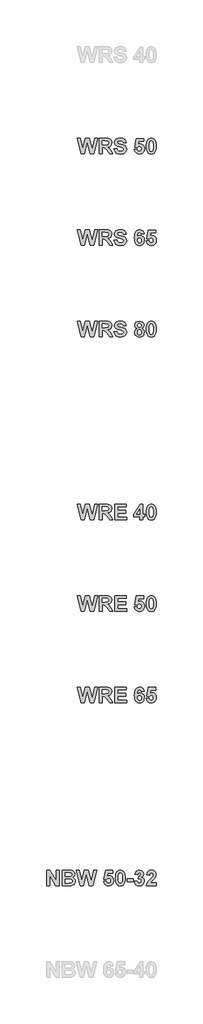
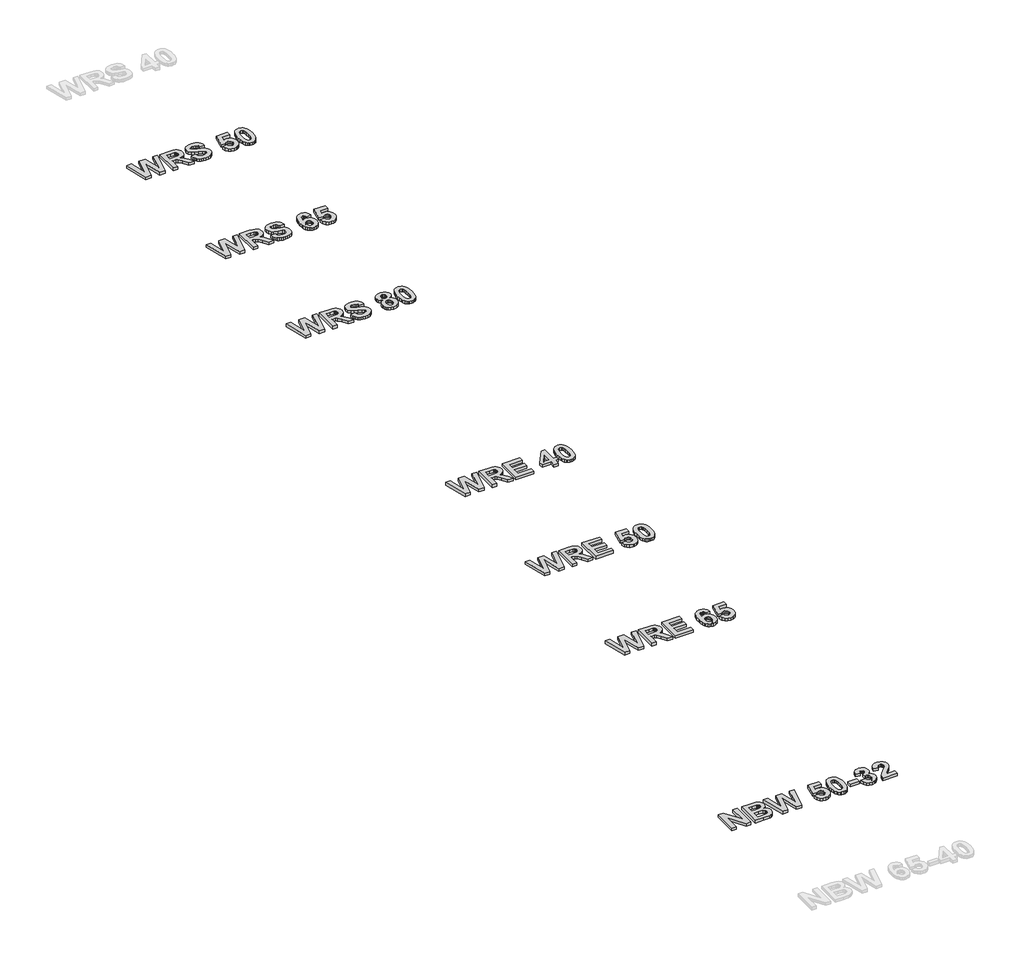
# One storey, part 5 of 9: 7 proxies.
"""IFC4 building model written with IfcOpenShell, lengths in millimetres."""

from ifc_helpers import new_model, si_unit, origin, origin_with_axes, place, context, project, spatial, polyline, outline, extrude, element, save

model = new_model("IFC4")

# Units and contexts
model_context = context("Model", 3, world=origin())
ifc_project = project(units=[si_unit("LENGTHUNIT", "METRE", prefix="MILLI")], contexts=[model_context])

# Site, building, storey
site = spatial("IfcSite", under=ifc_project)
building = spatial("IfcBuilding", under=site)
storey = spatial("IfcBuildingStorey", under=building, Name="Этаж 01", Elevation=0.0)

# Proxies
placement = place(None, origin())
element("IfcBuildingElementProxy", 1, Name="Wellmix_Надпись1", ObjectType="Wellmix_Надпись1", at=placement, inside=storey, context=model_context, shape_type="SweptSolid", body=[
    extrude(outline(polyline([(23621.0634593, -43606.2393741), (23556.8544259, -43351.1745242), (23606.7034095, -43351.1745242), (23647.9490152, -43526.4050883), (23692.2943673, -43351.1745242), (23757.6420831, -43351.1745242), (23801.7976549, -43529.3150543), (23843.0432606, -43351.1745242), (23892.8922441, -43351.1745242), (23829.6321127, -43606.2393741), (23772.1286532, -43606.2393741), (23724.873335, -43415.573338), (23676.6691149, -43606.2393741), (23621.0634593, -43606.2393741)])), origin_with_axes(), (0.0, 0.0, 1.0), 30.0),
    extrude(outline(polyline([(23917.1841346, -43606.2393741), (23917.1841346, -43351.1745242), (24024.4733175, -43351.1745242), (24059.4245402, -43352.8983627), (24083.3052398, -43358.0698785), (24099.8161341, -43367.6537884), (24112.6579408, -43382.6148095), (24120.9133879, -43401.5454038), (24123.6652037, -43423.0380335), (24119.6877229, -43449.3700632), (24107.7552806, -43470.6729125), (24087.8995068, -43485.9818643), (24060.1520317, -43494.3322016), (24085.6458647, -43515.5876058), (24112.7212009, -43556.7699514), (24143.9084457, -43606.2393741), (24087.1641078, -43606.2393741), (24050.220191, -43547.9767931), (24021.2154208, -43513.4051312), (24004.6412663, -43503.6314409), (23976.9016987, -43500.9745154), (23965.7679156, -43500.9745154), (23965.7679156, -43606.2393741), (23917.1841346, -43606.2393741)]), holes=[polyline([(23965.7679156, -43456.4393829), (24005.8115788, -43456.4393829), (24054.4269898, -43453.4977868), (24069.6094213, -43443.3761657), (24075.0814227, -43425.4419185), (24073.278509, -43414.5216383), (24067.8697677, -43405.9261679), (24059.1714996, -43399.8611028), (24047.5000054, -43396.5320384), (24008.0256834, -43395.7096567), (23965.7679156, -43395.7096567), (23965.7679156, -43456.4393829)])]), origin_with_axes(), (0.0, 0.0, 1.0), 30.0),
    extrude(outline(polyline([(24172.2489846, -43606.2393741), (24172.2489846, -43351.1745242), (24362.53546, -43351.1745242), (24362.53546, -43395.7096567), (24220.8327656, -43395.7096567), (24220.8327656, -43452.3907345), (24354.4381632, -43452.3907345), (24354.4381632, -43496.925867), (24220.8327656, -43496.925867), (24220.8327656, -43561.7042416), (24366.5841084, -43561.7042416), (24366.5841084, -43606.2393741), (24172.2489846, -43606.2393741)])), origin_with_axes(), (0.0, 0.0, 1.0), 30.0),
    extrude(outline(polyline([(24585.2111227, -43606.2393741), (24585.2111227, -43553.6069448), (24488.0435608, -43553.6069448), (24488.0435608, -43513.3102411), (24591.6636561, -43355.2231726), (24633.7949036, -43355.2231726), (24633.7949036, -43513.1204607), (24666.1840909, -43513.1204607), (24666.1840909, -43553.6069448), (24633.7949036, -43553.6069448), (24633.7949036, -43606.2393741), (24585.2111227, -43606.2393741)]), holes=[polyline([(24585.2111227, -43513.1204607), (24585.2111227, -43430.2496885), (24530.9339299, -43513.1204607), (24585.2111227, -43513.1204607)])]), origin_with_axes(), (0.0, 0.0, 1.0), 30.0),
    extrude(outline(polyline([(24771.4489497, -43351.1745242), (24788.580584, -43352.8192876), (24803.7274317, -43357.7535778), (24816.8894928, -43365.9773949), (24828.0667673, -43377.4907388), (24838.7221457, -43395.6187203), (24846.3331303, -43418.8786798), (24850.899721, -43447.2706176), (24852.4219179, -43480.7945335), (24850.8918135, -43514.2868193), (24846.3015002, -43542.7103871), (24838.650978, -43566.0652369), (24827.940247, -43584.3513687), (24816.8183252, -43595.6986547), (24803.6958017, -43603.8038591), (24788.5726765, -43608.6669817), (24771.4489497, -43610.2880226), (24754.1413731, -43608.5088314), (24738.5932189, -43603.1712578), (24724.8044871, -43594.2753018), (24712.7751777, -43581.8209634), (24703.0192793, -43564.8000343), (24696.0507805, -43542.2043061), (24691.8696812, -43514.0337788), (24690.4759814, -43480.2884524), (24692.0060858, -43446.9622244), (24696.5963991, -43418.6572694), (24704.2469213, -43395.3735872), (24714.9576523, -43377.111178), (24726.0795741, -43365.763892), (24739.2020977, -43357.6586876), (24754.3252228, -43352.795565), (24771.4489497, -43351.1745242)]), holes=[polyline([(24771.4489497, -43395.7096567), (24755.254356, -43401.0551378), (24748.9283429, -43408.5277408), (24744.2470931, -43420.2545877), (24740.3565951, -43444.4041429), (24739.0597624, -43480.7945335), (24740.2142598, -43516.7025656), (24743.677752, -43539.278525), (24748.9046203, -43552.5315225), (24755.3492462, -43560.470669), (24771.4489497, -43565.75289), (24787.6435433, -43560.4074089), (24793.9695565, -43552.9348059), (24798.6508062, -43541.207959), (24802.5413043, -43517.1849241), (24803.838137, -43480.7945335), (24802.6836396, -43444.926039), (24799.2201474, -43422.342172), (24793.993279, -43409.0496369), (24787.5486531, -43401.0551378), (24771.4489497, -43395.7096567)])]), origin_with_axes(), (0.0, 0.0, 1.0), 30.0),
])
element("IfcBuildingElementProxy", 2, Name="Wellmix_Надпись1", ObjectType="Wellmix_Надпись1", at=placement, inside=storey, context=model_context, shape_type="SweptSolid", body=[
    extrude(outline(polyline([(23621.0634593, -37606.2393741), (23556.8544259, -37351.1745242), (23606.7034095, -37351.1745242), (23647.9490152, -37526.4050883), (23692.2943673, -37351.1745242), (23757.6420831, -37351.1745242), (23801.7976549, -37529.3150543), (23843.0432606, -37351.1745242), (23892.8922441, -37351.1745242), (23829.6321127, -37606.2393741), (23772.1286532, -37606.2393741), (23724.873335, -37415.573338), (23676.6691149, -37606.2393741), (23621.0634593, -37606.2393741)])), origin_with_axes(), (0.0, 0.0, 1.0), 30.0),
    extrude(outline(polyline([(23917.1841346, -37606.2393741), (23917.1841346, -37351.1745242), (24024.4733175, -37351.1745242), (24059.4245402, -37352.8983627), (24083.3052398, -37358.0698785), (24099.8161341, -37367.6537884), (24112.6579408, -37382.6148095), (24120.9133879, -37401.5454038), (24123.6652037, -37423.0380335), (24119.6877229, -37449.3700632), (24107.7552806, -37470.6729125), (24087.8995068, -37485.9818643), (24060.1520317, -37494.3322016), (24085.6458647, -37515.5876058), (24112.7212009, -37556.7699514), (24143.9084457, -37606.2393741), (24087.1641078, -37606.2393741), (24050.220191, -37547.9767931), (24021.2154208, -37513.4051312), (24004.6412663, -37503.6314409), (23976.9016987, -37500.9745154), (23965.7679156, -37500.9745154), (23965.7679156, -37606.2393741), (23917.1841346, -37606.2393741)]), holes=[polyline([(23965.7679156, -37456.4393829), (24005.8115788, -37456.4393829), (24054.4269898, -37453.4977868), (24069.6094213, -37443.3761657), (24075.0814227, -37425.4419185), (24073.278509, -37414.5216383), (24067.8697677, -37405.9261679), (24059.1714996, -37399.8611028), (24047.5000054, -37396.5320384), (24008.0256834, -37395.7096567), (23965.7679156, -37395.7096567), (23965.7679156, -37456.4393829)])]), origin_with_axes(), (0.0, 0.0, 1.0), 30.0),
    extrude(outline(polyline([(24160.1030394, -37521.2177575), (24208.6868203, -37517.1691091), (24215.771955, -37538.8989642), (24227.6648597, -37553.9865056), (24244.4446096, -37562.8112939), (24266.1902798, -37565.75289), (24288.7583317, -37563.1513171), (24304.9687404, -37555.3465984), (24314.7424307, -37544.0625725), (24318.0003275, -37531.0230779), (24312.5915862, -37515.8090162), (24293.6451768, -37504.8966436), (24251.5139293, -37494.0791611), (24215.5505446, -37482.8979329), (24192.175926, -37469.2179294), (24174.1942336, -37445.922386), (24168.2003362, -37418.0404831), (24170.9521519, -37399.2522241), (24179.2075991, -37381.7291676), (24192.650377, -37366.8472217), (24210.964185, -37355.9822941), (24233.8485376, -37349.3399803), (24261.002949, -37347.1258757), (24302.9681387, -37352.6453222), (24319.5086862, -37359.5446303), (24333.0878688, -37369.2036616), (24343.7491778, -37381.1637802), (24351.5361046, -37394.9663501), (24356.4486492, -37410.6113714), (24358.4868116, -37428.098844), (24309.9030306, -37428.098844), (24304.533827, -37411.4060768), (24295.2583102, -37400.169496), (24281.2224685, -37393.7881302), (24261.5722902, -37391.6610083), (24240.8862272, -37393.922558), (24225.2609748, -37400.7072071), (24218.9033315, -37407.5076712), (24216.7841171, -37416.2691994), (24218.7135511, -37424.5404616), (24224.5018532, -37431.5148911), (24241.3053256, -37439.6833556), (24272.1051021, -37448.1206756), (24304.9766479, -37456.8980188), (24327.9954282, -37466.0865529), (24344.1267617, -37477.2124285), (24356.3359671, -37491.8017964), (24364.0220731, -37510.0365292), (24366.5841084, -37532.0985001), (24363.5555296, -37553.1641239), (24354.4697932, -37572.8380247), (24339.8408878, -37589.3805491), (24320.182802, -37601.0520434), (24295.2820327, -37607.9790278), (24264.9250772, -37610.2880226), (24242.2225975, -37608.8666465), (24222.3193786, -37604.6025182), (24205.2154206, -37597.4956379), (24190.9107234, -37587.5460053), (24179.306443, -37574.8722333), (24170.3037356, -37559.5929347), (24163.902601, -37541.7081094), (24160.1030394, -37521.2177575)])), origin_with_axes(), (0.0, 0.0, 1.0), 30.0),
    extrude(outline(polyline([(24496.1408576, -37534.439125), (24540.6759901, -37529.3150543), (24544.8195288, -37544.3867806), (24553.0749759, -37555.9475696), (24564.177129, -37563.3015599), (24576.8607853, -37565.75289), (24591.0547773, -37563.1513171), (24602.8923294, -37555.3465984), (24610.8868285, -37542.3071038), (24613.5516616, -37524.0012033), (24611.0766089, -37506.8418926), (24603.651451, -37494.5852421), (24592.2567198, -37487.2312519), (24577.8729474, -37484.7799218), (24559.0530583, -37489.8407323), (24542.3207536, -37505.0231638), (24500.189506, -37498.7604108), (24528.5300449, -37355.2231726), (24649.9894973, -37355.2231726), (24649.9894973, -37403.8069535), (24567.8145865, -37403.8069535), (24558.0092662, -37450.1766299), (24573.4921833, -37442.7277494), (24589.3230312, -37440.2447892), (24617.4421597, -37445.9935537), (24640.9432985, -37463.239847), (24656.8374065, -37489.6588594), (24662.1354425, -37522.925781), (24657.7230483, -37551.8514761), (24644.4858658, -37577.5192745), (24631.2684521, -37591.8556018), (24615.7183211, -37602.0958355), (24597.8354727, -37608.2399758), (24577.6199069, -37610.2880226), (24546.614535, -37605.1481369), (24521.9193612, -37589.7284798), (24504.7046979, -37565.6263698), (24496.1408576, -37534.439125)])), origin_with_axes(), (0.0, 0.0, 1.0), 30.0),
    extrude(outline(polyline([(24771.4489497, -37351.1745242), (24788.580584, -37352.8192876), (24803.7274317, -37357.7535778), (24816.8894928, -37365.9773949), (24828.0667673, -37377.4907388), (24838.7221457, -37395.6187203), (24846.3331303, -37418.8786798), (24850.899721, -37447.2706176), (24852.4219179, -37480.7945335), (24850.8918135, -37514.2868193), (24846.3015002, -37542.7103871), (24838.650978, -37566.0652369), (24827.940247, -37584.3513687), (24816.8183252, -37595.6986547), (24803.6958017, -37603.8038591), (24788.5726765, -37608.6669817), (24771.4489497, -37610.2880226), (24754.1413731, -37608.5088314), (24738.5932189, -37603.1712578), (24724.8044871, -37594.2753018), (24712.7751777, -37581.8209634), (24703.0192793, -37564.8000343), (24696.0507805, -37542.2043061), (24691.8696812, -37514.0337788), (24690.4759814, -37480.2884524), (24692.0060858, -37446.9622244), (24696.5963991, -37418.6572694), (24704.2469213, -37395.3735872), (24714.9576523, -37377.111178), (24726.0795741, -37365.763892), (24739.2020977, -37357.6586876), (24754.3252228, -37352.795565), (24771.4489497, -37351.1745242)]), holes=[polyline([(24771.4489497, -37395.7096567), (24755.254356, -37401.0551378), (24748.9283429, -37408.5277408), (24744.2470931, -37420.2545877), (24740.3565951, -37444.4041429), (24739.0597624, -37480.7945335), (24740.2142598, -37516.7025656), (24743.677752, -37539.278525), (24748.9046203, -37552.5315225), (24755.3492462, -37560.470669), (24771.4489497, -37565.75289), (24787.6435433, -37560.4074089), (24793.9695565, -37552.9348059), (24798.6508062, -37541.207959), (24802.5413043, -37517.1849241), (24803.838137, -37480.7945335), (24802.6836396, -37444.926039), (24799.2201474, -37422.342172), (24793.993279, -37409.0496369), (24787.5486531, -37401.0551378), (24771.4489497, -37395.7096567)])]), origin_with_axes(), (0.0, 0.0, 1.0), 30.0),
])
element("IfcBuildingElementProxy", 3, Name="Wellmix_Надпись1", ObjectType="Wellmix_Надпись1", at=placement, inside=storey, context=model_context, shape_type="SweptSolid", body=[
    extrude(outline(polyline([(23621.0634593, -39106.2393741), (23556.8544259, -38851.1745242), (23606.7034095, -38851.1745242), (23647.9490152, -39026.4050883), (23692.2943673, -38851.1745242), (23757.6420831, -38851.1745242), (23801.7976549, -39029.3150543), (23843.0432606, -38851.1745242), (23892.8922441, -38851.1745242), (23829.6321127, -39106.2393741), (23772.1286532, -39106.2393741), (23724.873335, -38915.573338), (23676.6691149, -39106.2393741), (23621.0634593, -39106.2393741)])), origin_with_axes(), (0.0, 0.0, 1.0), 30.0),
    extrude(outline(polyline([(23917.1841346, -39106.2393741), (23917.1841346, -38851.1745242), (24024.4733175, -38851.1745242), (24059.4245402, -38852.8983627), (24083.3052398, -38858.0698785), (24099.8161341, -38867.6537884), (24112.6579408, -38882.6148095), (24120.9133879, -38901.5454038), (24123.6652037, -38923.0380335), (24119.6877229, -38949.3700632), (24107.7552806, -38970.6729125), (24087.8995068, -38985.9818643), (24060.1520317, -38994.3322016), (24085.6458647, -39015.5876058), (24112.7212009, -39056.7699514), (24143.9084457, -39106.2393741), (24087.1641078, -39106.2393741), (24050.220191, -39047.9767931), (24021.2154208, -39013.4051312), (24004.6412663, -39003.6314409), (23976.9016987, -39000.9745154), (23965.7679156, -39000.9745154), (23965.7679156, -39106.2393741), (23917.1841346, -39106.2393741)]), holes=[polyline([(23965.7679156, -38956.4393829), (24005.8115788, -38956.4393829), (24054.4269898, -38953.4977868), (24069.6094213, -38943.3761657), (24075.0814227, -38925.4419185), (24073.278509, -38914.5216383), (24067.8697677, -38905.9261679), (24059.1714996, -38899.8611028), (24047.5000054, -38896.5320384), (24008.0256834, -38895.7096567), (23965.7679156, -38895.7096567), (23965.7679156, -38956.4393829)])]), origin_with_axes(), (0.0, 0.0, 1.0), 30.0),
    extrude(outline(polyline([(24160.1030394, -39021.2177575), (24208.6868203, -39017.1691091), (24215.771955, -39038.8989642), (24227.6648597, -39053.9865056), (24244.4446096, -39062.8112939), (24266.1902798, -39065.75289), (24288.7583317, -39063.1513171), (24304.9687404, -39055.3465984), (24314.7424307, -39044.0625725), (24318.0003275, -39031.0230779), (24312.5915862, -39015.8090162), (24293.6451768, -39004.8966436), (24251.5139293, -38994.0791611), (24215.5505446, -38982.8979329), (24192.175926, -38969.2179294), (24174.1942336, -38945.922386), (24168.2003362, -38918.0404831), (24170.9521519, -38899.2522241), (24179.2075991, -38881.7291676), (24192.650377, -38866.8472217), (24210.964185, -38855.9822941), (24233.8485376, -38849.3399803), (24261.002949, -38847.1258757), (24302.9681387, -38852.6453222), (24319.5086862, -38859.5446303), (24333.0878688, -38869.2036616), (24343.7491778, -38881.1637802), (24351.5361046, -38894.9663501), (24356.4486492, -38910.6113714), (24358.4868116, -38928.098844), (24309.9030306, -38928.098844), (24304.533827, -38911.4060768), (24295.2583102, -38900.169496), (24281.2224685, -38893.7881302), (24261.5722902, -38891.6610083), (24240.8862272, -38893.922558), (24225.2609748, -38900.7072071), (24218.9033315, -38907.5076712), (24216.7841171, -38916.2691994), (24218.7135511, -38924.5404616), (24224.5018532, -38931.5148911), (24241.3053256, -38939.6833556), (24272.1051021, -38948.1206756), (24304.9766479, -38956.8980188), (24327.9954282, -38966.0865529), (24344.1267617, -38977.2124285), (24356.3359671, -38991.8017964), (24364.0220731, -39010.0365292), (24366.5841084, -39032.0985001), (24363.5555296, -39053.1641239), (24354.4697932, -39072.8380247), (24339.8408878, -39089.3805491), (24320.182802, -39101.0520434), (24295.2820327, -39107.9790278), (24264.9250772, -39110.2880226), (24242.2225975, -39108.8666465), (24222.3193786, -39104.6025182), (24205.2154206, -39097.4956379), (24190.9107234, -39087.5460053), (24179.306443, -39074.8722333), (24170.3037356, -39059.5929347), (24163.902601, -39041.7081094), (24160.1030394, -39021.2177575)])), origin_with_axes(), (0.0, 0.0, 1.0), 30.0),
    extrude(outline(polyline([(24654.0381457, -38918.8628648), (24605.4543647, -38924.0501956), (24602.4811386, -38911.4535219), (24596.8509869, -38902.6366411), (24588.8485802, -38897.4414028), (24578.7585893, -38895.7096567), (24565.157661, -38899.0703512), (24553.8340975, -38909.1524346), (24545.5312052, -38929.9887404), (24540.9922908, -38965.6121019), (24561.0141224, -38949.6231037), (24585.4009031, -38944.2934376), (24613.2274534, -38949.9868495), (24636.7364997, -38967.067085), (24652.7492205, -38993.1460742), (24658.0867941, -39025.8357471), (24652.6306078, -39060.2729811), (24645.8103748, -39074.6626842), (24636.2620488, -39087.1664445), (24624.5707857, -39097.2821349), (24611.3217419, -39104.507628), (24580.1503122, -39110.2880226), (24562.6193482, -39108.4218487), (24546.7173327, -39102.823327), (24532.4442655, -39093.4924577), (24519.8001468, -39080.4292405), (24509.4492078, -39063.1157333), (24502.0556799, -39041.0339937), (24497.6195632, -39014.1840216), (24496.1408576, -38982.5658172), (24497.6848002, -38950.1133697), (24502.3166279, -38922.5319524), (24510.0363409, -38899.8215652), (24520.8439389, -38881.9822082), (24534.1186821, -38868.5038464), (24549.2398304, -38858.8764452), (24566.2073838, -38853.1000044), (24585.0213423, -38851.1745242), (24610.3412099, -38855.5078432), (24630.8849376, -38868.5078002), (24645.7510685, -38889.7632043), (24654.0381457, -38918.8628648)]), holes=[polyline([(24544.7246386, -39024.7603248), (24547.349934, -39042.1805835), (24555.2258204, -39055.0935579), (24566.4703087, -39063.088057), (24579.2014102, -39065.75289), (24591.0943149, -39063.5704155), (24600.8363751, -39057.0229919), (24607.3363537, -39045.4938329), (24609.5030132, -39028.3661523), (24607.1702958, -39010.6137779), (24600.1721438, -38998.34922), (24589.6788695, -38991.2087326), (24576.8607853, -38988.8285702), (24564.422262, -38991.1059349), (24554.0555079, -38997.9380291), (24547.0573559, -39009.1983325), (24544.7246386, -39024.7603248)])]), origin_with_axes(), (0.0, 0.0, 1.0), 30.0),
    extrude(outline(polyline([(24690.4759814, -39034.439125), (24735.0111139, -39029.3150543), (24739.1546526, -39044.3867806), (24747.4100997, -39055.9475696), (24758.5122528, -39063.3015599), (24771.1959091, -39065.75289), (24785.3899011, -39063.1513171), (24797.2274532, -39055.3465984), (24805.2219523, -39042.3071038), (24807.8867854, -39024.0012033), (24805.4117327, -39006.8418926), (24797.9865748, -38994.5852421), (24786.5918436, -38987.2312519), (24772.2080712, -38984.7799218), (24753.3881821, -38989.8407323), (24736.6558774, -39005.0231638), (24694.5246298, -38998.7604108), (24722.8651687, -38855.2231726), (24844.3246211, -38855.2231726), (24844.3246211, -38903.8069535), (24762.1497103, -38903.8069535), (24752.34439, -38950.1766299), (24767.8273071, -38942.7277494), (24783.658155, -38940.2447892), (24811.7772835, -38945.9935537), (24835.2784223, -38963.239847), (24851.1725303, -38989.6588594), (24856.4705663, -39022.925781), (24852.0581722, -39051.8514761), (24838.8209896, -39077.5192745), (24825.6035759, -39091.8556018), (24810.0534449, -39102.0958355), (24792.1705965, -39108.2399758), (24771.9550307, -39110.2880226), (24740.9496588, -39105.1481369), (24716.254485, -39089.7284798), (24699.0398217, -39065.6263698), (24690.4759814, -39034.439125)])), origin_with_axes(), (0.0, 0.0, 1.0), 30.0),
])
element("IfcBuildingElementProxy", 4, Name="Wellmix_Надпись1", ObjectType="Wellmix_Надпись1", at=placement, inside=storey, context=model_context, shape_type="SweptSolid", body=[
    extrude(outline(polyline([(23621.0634593, -40606.2393741), (23556.8544259, -40351.1745242), (23606.7034095, -40351.1745242), (23647.9490152, -40526.4050883), (23692.2943673, -40351.1745242), (23757.6420831, -40351.1745242), (23801.7976549, -40529.3150543), (23843.0432606, -40351.1745242), (23892.8922441, -40351.1745242), (23829.6321127, -40606.2393741), (23772.1286532, -40606.2393741), (23724.873335, -40415.573338), (23676.6691149, -40606.2393741), (23621.0634593, -40606.2393741)])), origin_with_axes(), (0.0, 0.0, 1.0), 30.0),
    extrude(outline(polyline([(23917.1841346, -40606.2393741), (23917.1841346, -40351.1745242), (24024.4733175, -40351.1745242), (24059.4245402, -40352.8983627), (24083.3052398, -40358.0698785), (24099.8161341, -40367.6537884), (24112.6579408, -40382.6148095), (24120.9133879, -40401.5454038), (24123.6652037, -40423.0380335), (24119.6877229, -40449.3700632), (24107.7552806, -40470.6729125), (24087.8995068, -40485.9818643), (24060.1520317, -40494.3322016), (24085.6458647, -40515.5876058), (24112.7212009, -40556.7699514), (24143.9084457, -40606.2393741), (24087.1641078, -40606.2393741), (24050.220191, -40547.9767931), (24021.2154208, -40513.4051312), (24004.6412663, -40503.6314409), (23976.9016987, -40500.9745154), (23965.7679156, -40500.9745154), (23965.7679156, -40606.2393741), (23917.1841346, -40606.2393741)]), holes=[polyline([(23965.7679156, -40456.4393829), (24005.8115788, -40456.4393829), (24054.4269898, -40453.4977868), (24069.6094213, -40443.3761657), (24075.0814227, -40425.4419185), (24073.278509, -40414.5216383), (24067.8697677, -40405.9261679), (24059.1714996, -40399.8611028), (24047.5000054, -40396.5320384), (24008.0256834, -40395.7096567), (23965.7679156, -40395.7096567), (23965.7679156, -40456.4393829)])]), origin_with_axes(), (0.0, 0.0, 1.0), 30.0),
    extrude(outline(polyline([(24160.1030394, -40521.2177575), (24208.6868203, -40517.1691091), (24215.771955, -40538.8989642), (24227.6648597, -40553.9865056), (24244.4446096, -40562.8112939), (24266.1902798, -40565.75289), (24288.7583317, -40563.1513171), (24304.9687404, -40555.3465984), (24314.7424307, -40544.0625725), (24318.0003275, -40531.0230779), (24312.5915862, -40515.8090162), (24293.6451768, -40504.8966436), (24251.5139293, -40494.0791611), (24215.5505446, -40482.8979329), (24192.175926, -40469.2179294), (24174.1942336, -40445.922386), (24168.2003362, -40418.0404831), (24170.9521519, -40399.2522241), (24179.2075991, -40381.7291676), (24192.650377, -40366.8472217), (24210.964185, -40355.9822941), (24233.8485376, -40349.3399803), (24261.002949, -40347.1258757), (24302.9681387, -40352.6453222), (24319.5086862, -40359.5446303), (24333.0878688, -40369.2036616), (24343.7491778, -40381.1637802), (24351.5361046, -40394.9663501), (24356.4486492, -40410.6113714), (24358.4868116, -40428.098844), (24309.9030306, -40428.098844), (24304.533827, -40411.4060768), (24295.2583102, -40400.169496), (24281.2224685, -40393.7881302), (24261.5722902, -40391.6610083), (24240.8862272, -40393.922558), (24225.2609748, -40400.7072071), (24218.9033315, -40407.5076712), (24216.7841171, -40416.2691994), (24218.7135511, -40424.5404616), (24224.5018532, -40431.5148911), (24241.3053256, -40439.6833556), (24272.1051021, -40448.1206756), (24304.9766479, -40456.8980188), (24327.9954282, -40466.0865529), (24344.1267617, -40477.2124285), (24356.3359671, -40491.8017964), (24364.0220731, -40510.0365292), (24366.5841084, -40532.0985001), (24363.5555296, -40553.1641239), (24354.4697932, -40572.8380247), (24339.8408878, -40589.3805491), (24320.182802, -40601.0520434), (24295.2820327, -40607.9790278), (24264.9250772, -40610.2880226), (24242.2225975, -40608.8666465), (24222.3193786, -40604.6025182), (24205.2154206, -40597.4956379), (24190.9107234, -40587.5460053), (24179.306443, -40574.8722333), (24170.3037356, -40559.5929347), (24163.902601, -40541.7081094), (24160.1030394, -40521.2177575)])), origin_with_axes(), (0.0, 0.0, 1.0), 30.0),
    extrude(outline(polyline([(24538.7781862, -40469.4077098), (24521.3025749, -40459.9345051), (24509.3622251, -40447.4564442), (24502.4826858, -40432.7959088), (24500.189506, -40416.7752805), (24505.1949639, -40390.783274), (24520.2113376, -40369.7413727), (24544.4478755, -40355.8162363), (24577.1138259, -40351.1745242), (24609.5820883, -40355.8162363), (24633.8581638, -40369.7413727), (24648.9931502, -40390.783274), (24654.0381457, -40416.7752805), (24651.4840179, -40433.5154927), (24643.8216345, -40448.310456), (24631.5254464, -40460.4959388), (24615.0699047, -40469.4077098), (24633.6130308, -40479.8140015), (24647.1111613, -40494.0791611), (24655.3428859, -40511.5231423), (24658.0867941, -40531.4658988), (24652.6464228, -40563.2224848), (24645.8459587, -40576.6336326), (24636.3253089, -40588.4000171), (24624.5470632, -40597.9760195), (24610.9738112, -40604.8160212), (24578.4422886, -40610.2880226), (24547.6662347, -40605.7649232), (24522.5203324, -40592.195625), (24510.9793122, -40580.5122694), (24502.7357263, -40566.8441273), (24497.7895748, -40551.1911985), (24496.1408576, -40533.5534831), (24498.7108004, -40513.8874898), (24506.420629, -40495.8820748), (24519.649904, -40480.6759207), (24538.7781862, -40469.4077098)]), holes=[polyline([(24548.773287, -40419.7485066), (24550.6948135, -40433.4364176), (24556.4593929, -40443.7557265), (24565.4186091, -40450.2319825), (24576.9240455, -40452.3907345), (24588.5955397, -40450.2082599), (24597.6733686, -40443.6608363), (24603.5091157, -40433.2703597), (24605.4543647, -40419.5587262), (24603.5328383, -40406.5113241), (24597.7682588, -40396.342258), (24588.8406727, -40389.7948344), (24577.4301265, -40387.6123599), (24565.6637421, -40389.8106494), (24556.5542831, -40396.4055181), (24550.718536, -40406.6378444), (24548.773287, -40419.7485066)]), polyline([(24544.7246386, -40529.4415746), (24547.0810785, -40548.0795908), (24554.1503981, -40562.1154325), (24564.7464702, -40570.9164982), (24577.683167, -40573.8501868), (24590.2798407, -40571.0272035), (24600.4884444, -40562.5582534), (24607.249371, -40548.7754522), (24609.5030132, -40530.0109158), (24607.2098334, -40513.2390734), (24600.3302941, -40500.1205036), (24589.9240025, -40491.6515535), (24577.0505657, -40488.8285702), (24562.8091286, -40492.0311143), (24552.7270452, -40501.6387468), (24546.7252402, -40514.9945421), (24544.7246386, -40529.4415746)])]), origin_with_axes(), (0.0, 0.0, 1.0), 30.0),
    extrude(outline(polyline([(24771.4489497, -40351.1745242), (24788.580584, -40352.8192876), (24803.7274317, -40357.7535778), (24816.8894928, -40365.9773949), (24828.0667673, -40377.4907388), (24838.7221457, -40395.6187203), (24846.3331303, -40418.8786798), (24850.899721, -40447.2706176), (24852.4219179, -40480.7945335), (24850.8918135, -40514.2868193), (24846.3015002, -40542.7103871), (24838.650978, -40566.0652369), (24827.940247, -40584.3513687), (24816.8183252, -40595.6986547), (24803.6958017, -40603.8038591), (24788.5726765, -40608.6669817), (24771.4489497, -40610.2880226), (24754.1413731, -40608.5088314), (24738.5932189, -40603.1712578), (24724.8044871, -40594.2753018), (24712.7751777, -40581.8209634), (24703.0192793, -40564.8000343), (24696.0507805, -40542.2043061), (24691.8696812, -40514.0337788), (24690.4759814, -40480.2884524), (24692.0060858, -40446.9622244), (24696.5963991, -40418.6572694), (24704.2469213, -40395.3735872), (24714.9576523, -40377.111178), (24726.0795741, -40365.763892), (24739.2020977, -40357.6586876), (24754.3252228, -40352.795565), (24771.4489497, -40351.1745242)]), holes=[polyline([(24771.4489497, -40395.7096567), (24755.254356, -40401.0551378), (24748.9283429, -40408.5277408), (24744.2470931, -40420.2545877), (24740.3565951, -40444.4041429), (24739.0597624, -40480.7945335), (24740.2142598, -40516.7025656), (24743.677752, -40539.278525), (24748.9046203, -40552.5315225), (24755.3492462, -40560.470669), (24771.4489497, -40565.75289), (24787.6435433, -40560.4074089), (24793.9695565, -40552.9348059), (24798.6508062, -40541.207959), (24802.5413043, -40517.1849241), (24803.838137, -40480.7945335), (24802.6836396, -40444.926039), (24799.2201474, -40422.342172), (24793.993279, -40409.0496369), (24787.5486531, -40401.0551378), (24771.4489497, -40395.7096567)])]), origin_with_axes(), (0.0, 0.0, 1.0), 30.0),
])
element("IfcBuildingElementProxy", 5, Name="Wellmix_Надпись1", ObjectType="Wellmix_Надпись1", at=placement, inside=storey, context=model_context, shape_type="SweptSolid", body=[
    extrude(outline(polyline([(23621.0634593, -45106.2393741), (23556.8544259, -44851.1745242), (23606.7034095, -44851.1745242), (23647.9490152, -45026.4050883), (23692.2943673, -44851.1745242), (23757.6420831, -44851.1745242), (23801.7976549, -45029.3150543), (23843.0432606, -44851.1745242), (23892.8922441, -44851.1745242), (23829.6321127, -45106.2393741), (23772.1286532, -45106.2393741), (23724.873335, -44915.573338), (23676.6691149, -45106.2393741), (23621.0634593, -45106.2393741)])), origin_with_axes(), (0.0, 0.0, 1.0), 30.0),
    extrude(outline(polyline([(23917.1841346, -45106.2393741), (23917.1841346, -44851.1745242), (24024.4733175, -44851.1745242), (24059.4245402, -44852.8983627), (24083.3052398, -44858.0698785), (24099.8161341, -44867.6537884), (24112.6579408, -44882.6148095), (24120.9133879, -44901.5454038), (24123.6652037, -44923.0380335), (24119.6877229, -44949.3700632), (24107.7552806, -44970.6729125), (24087.8995068, -44985.9818643), (24060.1520317, -44994.3322016), (24085.6458647, -45015.5876058), (24112.7212009, -45056.7699514), (24143.9084457, -45106.2393741), (24087.1641078, -45106.2393741), (24050.220191, -45047.9767931), (24021.2154208, -45013.4051312), (24004.6412663, -45003.6314409), (23976.9016987, -45000.9745154), (23965.7679156, -45000.9745154), (23965.7679156, -45106.2393741), (23917.1841346, -45106.2393741)]), holes=[polyline([(23965.7679156, -44956.4393829), (24005.8115788, -44956.4393829), (24054.4269898, -44953.4977868), (24069.6094213, -44943.3761657), (24075.0814227, -44925.4419185), (24073.278509, -44914.5216383), (24067.8697677, -44905.9261679), (24059.1714996, -44899.8611028), (24047.5000054, -44896.5320384), (24008.0256834, -44895.7096567), (23965.7679156, -44895.7096567), (23965.7679156, -44956.4393829)])]), origin_with_axes(), (0.0, 0.0, 1.0), 30.0),
    extrude(outline(polyline([(24172.2489846, -45106.2393741), (24172.2489846, -44851.1745242), (24362.53546, -44851.1745242), (24362.53546, -44895.7096567), (24220.8327656, -44895.7096567), (24220.8327656, -44952.3907345), (24354.4381632, -44952.3907345), (24354.4381632, -44996.925867), (24220.8327656, -44996.925867), (24220.8327656, -45061.7042416), (24366.5841084, -45061.7042416), (24366.5841084, -45106.2393741), (24172.2489846, -45106.2393741)])), origin_with_axes(), (0.0, 0.0, 1.0), 30.0),
    extrude(outline(polyline([(24496.1408576, -45034.439125), (24540.6759901, -45029.3150543), (24544.8195288, -45044.3867806), (24553.0749759, -45055.9475696), (24564.177129, -45063.3015599), (24576.8607853, -45065.75289), (24591.0547773, -45063.1513171), (24602.8923294, -45055.3465984), (24610.8868285, -45042.3071038), (24613.5516616, -45024.0012033), (24611.0766089, -45006.8418926), (24603.651451, -44994.5852421), (24592.2567198, -44987.2312519), (24577.8729474, -44984.7799218), (24559.0530583, -44989.8407323), (24542.3207536, -45005.0231638), (24500.189506, -44998.7604108), (24528.5300449, -44855.2231726), (24649.9894973, -44855.2231726), (24649.9894973, -44903.8069535), (24567.8145865, -44903.8069535), (24558.0092662, -44950.1766299), (24573.4921833, -44942.7277494), (24589.3230312, -44940.2447892), (24617.4421597, -44945.9935537), (24640.9432985, -44963.239847), (24656.8374065, -44989.6588594), (24662.1354425, -45022.925781), (24657.7230483, -45051.8514761), (24644.4858658, -45077.5192745), (24631.2684521, -45091.8556018), (24615.7183211, -45102.0958355), (24597.8354727, -45108.2399758), (24577.6199069, -45110.2880226), (24546.614535, -45105.1481369), (24521.9193612, -45089.7284798), (24504.7046979, -45065.6263698), (24496.1408576, -45034.439125)])), origin_with_axes(), (0.0, 0.0, 1.0), 30.0),
    extrude(outline(polyline([(24771.4489497, -44851.1745242), (24788.580584, -44852.8192876), (24803.7274317, -44857.7535778), (24816.8894928, -44865.9773949), (24828.0667673, -44877.4907388), (24838.7221457, -44895.6187203), (24846.3331303, -44918.8786798), (24850.899721, -44947.2706176), (24852.4219179, -44980.7945335), (24850.8918135, -45014.2868193), (24846.3015002, -45042.7103871), (24838.650978, -45066.0652369), (24827.940247, -45084.3513687), (24816.8183252, -45095.6986547), (24803.6958017, -45103.8038591), (24788.5726765, -45108.6669817), (24771.4489497, -45110.2880226), (24754.1413731, -45108.5088314), (24738.5932189, -45103.1712578), (24724.8044871, -45094.2753018), (24712.7751777, -45081.8209634), (24703.0192793, -45064.8000343), (24696.0507805, -45042.2043061), (24691.8696812, -45014.0337788), (24690.4759814, -44980.2884524), (24692.0060858, -44946.9622244), (24696.5963991, -44918.6572694), (24704.2469213, -44895.3735872), (24714.9576523, -44877.111178), (24726.0795741, -44865.763892), (24739.2020977, -44857.6586876), (24754.3252228, -44852.795565), (24771.4489497, -44851.1745242)]), holes=[polyline([(24771.4489497, -44895.7096567), (24755.254356, -44901.0551378), (24748.9283429, -44908.5277408), (24744.2470931, -44920.2545877), (24740.3565951, -44944.4041429), (24739.0597624, -44980.7945335), (24740.2142598, -45016.7025656), (24743.677752, -45039.278525), (24748.9046203, -45052.5315225), (24755.3492462, -45060.470669), (24771.4489497, -45065.75289), (24787.6435433, -45060.4074089), (24793.9695565, -45052.9348059), (24798.6508062, -45041.207959), (24802.5413043, -45017.1849241), (24803.838137, -44980.7945335), (24802.6836396, -44944.926039), (24799.2201474, -44922.342172), (24793.993279, -44909.0496369), (24787.5486531, -44901.0551378), (24771.4489497, -44895.7096567)])]), origin_with_axes(), (0.0, 0.0, 1.0), 30.0),
])
element("IfcBuildingElementProxy", 6, Name="Wellmix_Надпись1", ObjectType="Wellmix_Надпись1", at=placement, inside=storey, context=model_context, shape_type="SweptSolid", body=[
    extrude(outline(polyline([(23621.0634593, -46606.2393741), (23556.8544259, -46351.1745242), (23606.7034095, -46351.1745242), (23647.9490152, -46526.4050883), (23692.2943673, -46351.1745242), (23757.6420831, -46351.1745242), (23801.7976549, -46529.3150543), (23843.0432606, -46351.1745242), (23892.8922441, -46351.1745242), (23829.6321127, -46606.2393741), (23772.1286532, -46606.2393741), (23724.873335, -46415.573338), (23676.6691149, -46606.2393741), (23621.0634593, -46606.2393741)])), origin_with_axes(), (0.0, 0.0, 1.0), 30.0),
    extrude(outline(polyline([(23917.1841346, -46606.2393741), (23917.1841346, -46351.1745242), (24024.4733175, -46351.1745242), (24059.4245402, -46352.8983627), (24083.3052398, -46358.0698785), (24099.8161341, -46367.6537884), (24112.6579408, -46382.6148095), (24120.9133879, -46401.5454038), (24123.6652037, -46423.0380335), (24119.6877229, -46449.3700632), (24107.7552806, -46470.6729125), (24087.8995068, -46485.9818643), (24060.1520317, -46494.3322016), (24085.6458647, -46515.5876058), (24112.7212009, -46556.7699514), (24143.9084457, -46606.2393741), (24087.1641078, -46606.2393741), (24050.220191, -46547.9767931), (24021.2154208, -46513.4051312), (24004.6412663, -46503.6314409), (23976.9016987, -46500.9745154), (23965.7679156, -46500.9745154), (23965.7679156, -46606.2393741), (23917.1841346, -46606.2393741)]), holes=[polyline([(23965.7679156, -46456.4393829), (24005.8115788, -46456.4393829), (24054.4269898, -46453.4977868), (24069.6094213, -46443.3761657), (24075.0814227, -46425.4419185), (24073.278509, -46414.5216383), (24067.8697677, -46405.9261679), (24059.1714996, -46399.8611028), (24047.5000054, -46396.5320384), (24008.0256834, -46395.7096567), (23965.7679156, -46395.7096567), (23965.7679156, -46456.4393829)])]), origin_with_axes(), (0.0, 0.0, 1.0), 30.0),
    extrude(outline(polyline([(24172.2489846, -46606.2393741), (24172.2489846, -46351.1745242), (24362.53546, -46351.1745242), (24362.53546, -46395.7096567), (24220.8327656, -46395.7096567), (24220.8327656, -46452.3907345), (24354.4381632, -46452.3907345), (24354.4381632, -46496.925867), (24220.8327656, -46496.925867), (24220.8327656, -46561.7042416), (24366.5841084, -46561.7042416), (24366.5841084, -46606.2393741), (24172.2489846, -46606.2393741)])), origin_with_axes(), (0.0, 0.0, 1.0), 30.0),
    extrude(outline(polyline([(24654.0381457, -46418.8628648), (24605.4543647, -46424.0501956), (24602.4811386, -46411.4535219), (24596.8509869, -46402.6366411), (24588.8485802, -46397.4414028), (24578.7585893, -46395.7096567), (24565.157661, -46399.0703512), (24553.8340975, -46409.1524346), (24545.5312052, -46429.9887404), (24540.9922908, -46465.6121019), (24561.0141224, -46449.6231037), (24585.4009031, -46444.2934376), (24613.2274534, -46449.9868495), (24636.7364997, -46467.067085), (24652.7492205, -46493.1460742), (24658.0867941, -46525.8357471), (24652.6306078, -46560.2729811), (24645.8103748, -46574.6626842), (24636.2620488, -46587.1664445), (24624.5707857, -46597.2821349), (24611.3217419, -46604.507628), (24580.1503122, -46610.2880226), (24562.6193482, -46608.4218487), (24546.7173327, -46602.823327), (24532.4442655, -46593.4924577), (24519.8001468, -46580.4292405), (24509.4492078, -46563.1157333), (24502.0556799, -46541.0339937), (24497.6195632, -46514.1840216), (24496.1408576, -46482.5658172), (24497.6848002, -46450.1133697), (24502.3166279, -46422.5319524), (24510.0363409, -46399.8215652), (24520.8439389, -46381.9822082), (24534.1186821, -46368.5038464), (24549.2398304, -46358.8764452), (24566.2073838, -46353.1000044), (24585.0213423, -46351.1745242), (24610.3412099, -46355.5078432), (24630.8849376, -46368.5078002), (24645.7510685, -46389.7632043), (24654.0381457, -46418.8628648)]), holes=[polyline([(24544.7246386, -46524.7603248), (24547.349934, -46542.1805835), (24555.2258204, -46555.0935579), (24566.4703087, -46563.088057), (24579.2014102, -46565.75289), (24591.0943149, -46563.5704155), (24600.8363751, -46557.0229919), (24607.3363537, -46545.4938329), (24609.5030132, -46528.3661523), (24607.1702958, -46510.6137779), (24600.1721438, -46498.34922), (24589.6788695, -46491.2087326), (24576.8607853, -46488.8285702), (24564.422262, -46491.1059349), (24554.0555079, -46497.9380291), (24547.0573559, -46509.1983325), (24544.7246386, -46524.7603248)])]), origin_with_axes(), (0.0, 0.0, 1.0), 30.0),
    extrude(outline(polyline([(24690.4759814, -46534.439125), (24735.0111139, -46529.3150543), (24739.1546526, -46544.3867806), (24747.4100997, -46555.9475696), (24758.5122528, -46563.3015599), (24771.1959091, -46565.75289), (24785.3899011, -46563.1513171), (24797.2274532, -46555.3465984), (24805.2219523, -46542.3071038), (24807.8867854, -46524.0012033), (24805.4117327, -46506.8418926), (24797.9865748, -46494.5852421), (24786.5918436, -46487.2312519), (24772.2080712, -46484.7799218), (24753.3881821, -46489.8407323), (24736.6558774, -46505.0231638), (24694.5246298, -46498.7604108), (24722.8651687, -46355.2231726), (24844.3246211, -46355.2231726), (24844.3246211, -46403.8069535), (24762.1497103, -46403.8069535), (24752.34439, -46450.1766299), (24767.8273071, -46442.7277494), (24783.658155, -46440.2447892), (24811.7772835, -46445.9935537), (24835.2784223, -46463.239847), (24851.1725303, -46489.6588594), (24856.4705663, -46522.925781), (24852.0581722, -46551.8514761), (24838.8209896, -46577.5192745), (24825.6035759, -46591.8556018), (24810.0534449, -46602.0958355), (24792.1705965, -46608.2399758), (24771.9550307, -46610.2880226), (24740.9496588, -46605.1481369), (24716.254485, -46589.7284798), (24699.0398217, -46565.6263698), (24690.4759814, -46534.439125)])), origin_with_axes(), (0.0, 0.0, 1.0), 30.0),
])
element("IfcBuildingElementProxy", 7, Name="Wellmix_Надпись1", ObjectType="Wellmix_Надпись1", at=placement, inside=storey, context=model_context, shape_type="SweptSolid", body=[
    extrude(outline(polyline([(23054.8220227, -49606.2393741), (23054.8220227, -49351.1745242), (23105.7464286, -49351.1745242), (23212.7193108, -49522.8625209), (23212.7193108, -49351.1745242), (23261.3030918, -49351.1745242), (23261.3030918, -49606.2393741), (23208.7971827, -49606.2393741), (23103.4058037, -49437.0817827), (23103.4058037, -49606.2393741), (23054.8220227, -49606.2393741)])), origin_with_axes(), (0.0, 0.0, 1.0), 30.0),
    extrude(outline(polyline([(23309.8868727, -49351.1745242), (23414.5823903, -49351.1745242), (23460.9204366, -49353.7049294), (23488.2488133, -49364.3010014), (23499.2956138, -49373.695131), (23508.3339051, -49385.746186), (23514.3594326, -49399.940178), (23516.3679418, -49415.7631184), (23513.9719643, -49433.0015042), (23506.7840319, -49448.784907), (23495.4841909, -49461.9588294), (23480.7524878, -49471.3687739), (23499.3825965, -49480.5098629), (23513.1416751, -49494.3954617), (23521.6343477, -49512.0924835), (23524.4652386, -49532.6678413), (23522.4330069, -49549.7559843), (23516.3363117, -49566.3538613), (23506.7207717, -49581.0618418), (23494.1320056, -49592.4802956), (23478.4197704, -49600.3799045), (23459.4338235, -49604.5313506), (23397.0593339, -49606.2393741), (23309.8868727, -49606.2393741), (23309.8868727, -49351.1745242)]), holes=[polyline([(23358.4706537, -49395.7096567), (23358.4706537, -49452.3907345), (23395.5410907, -49452.3907345), (23436.6601762, -49451.5683528), (23449.6047805, -49448.6109416), (23459.4654535, -49442.7751945), (23465.704484, -49434.345782), (23467.7841608, -49423.6073747), (23465.9891546, -49413.3355108), (23460.6041359, -49405.1670463), (23451.6923649, -49399.449912), (23439.3171017, -49396.5320384), (23390.9863612, -49395.7096567), (23358.4706537, -49395.7096567)]), polyline([(23358.4706537, -49496.925867), (23358.4706537, -49561.7042416), (23409.8378804, -49561.7042416), (23447.9204795, -49560.1859985), (23459.1649679, -49556.7936739), (23468.1004615, -49550.5388284), (23473.9362086, -49541.5479822), (23475.8814576, -49529.9476556), (23474.3790295, -49519.8892947), (23469.8717452, -49511.4756972), (23452.5384691, -49500.4051742), (23403.3220869, -49496.925867), (23358.4706537, -49496.925867)])]), origin_with_axes(), (0.0, 0.0, 1.0), 30.0),
    extrude(outline(polyline([(23604.8688657, -49606.2393741), (23540.6598322, -49351.1745242), (23590.5088158, -49351.1745242), (23631.7544215, -49526.4050883), (23676.0997737, -49351.1745242), (23741.4474895, -49351.1745242), (23785.6030612, -49529.3150543), (23826.8486669, -49351.1745242), (23876.6976505, -49351.1745242), (23813.437519, -49606.2393741), (23755.9340596, -49606.2393741), (23708.6787414, -49415.573338), (23660.4745212, -49606.2393741), (23604.8688657, -49606.2393741)])), origin_with_axes(), (0.0, 0.0, 1.0), 30.0),
    extrude(outline(polyline([(23990.059806, -49534.439125), (24034.5949386, -49529.3150543), (24038.7384772, -49544.3867806), (24046.9939243, -49555.9475696), (24058.0960774, -49563.3015599), (24070.7797338, -49565.75289), (24084.9737258, -49563.1513171), (24096.8112779, -49555.3465984), (24104.805777, -49542.3071038), (24107.47061, -49524.0012033), (24104.9955574, -49506.8418926), (24097.5703994, -49494.5852421), (24086.1756683, -49487.2312519), (24071.7918959, -49484.7799218), (24052.9720068, -49489.8407323), (24036.239702, -49505.0231638), (23994.1084545, -49498.7604108), (24022.4489933, -49355.2231726), (24143.9084457, -49355.2231726), (24143.9084457, -49403.8069535), (24061.733535, -49403.8069535), (24051.9282146, -49450.1766299), (24067.4111318, -49442.7277494), (24083.2419797, -49440.2447892), (24111.3611081, -49445.9935537), (24134.8622469, -49463.239847), (24150.7563549, -49489.6588594), (24156.054391, -49522.925781), (24151.6419968, -49551.8514761), (24138.4048143, -49577.5192745), (24125.1874006, -49591.8556018), (24109.6372695, -49602.0958355), (24091.7544211, -49608.2399758), (24071.5388553, -49610.2880226), (24040.5334834, -49605.1481369), (24015.8383096, -49589.7284798), (23998.6236463, -49565.6263698), (23990.059806, -49534.439125)])), origin_with_axes(), (0.0, 0.0, 1.0), 30.0),
    extrude(outline(polyline([(24265.3678981, -49351.1745242), (24282.4995324, -49352.8192876), (24297.6463802, -49357.7535778), (24310.8084413, -49365.9773949), (24321.9857157, -49377.4907388), (24332.6410941, -49395.6187203), (24340.2520787, -49418.8786798), (24344.8186694, -49447.2706176), (24346.3408663, -49480.7945335), (24344.8107619, -49514.2868193), (24340.2204486, -49542.7103871), (24332.5699265, -49566.0652369), (24321.8591955, -49584.3513687), (24310.7372736, -49595.6986547), (24297.6147501, -49603.8038591), (24282.4916249, -49608.6669817), (24265.3678981, -49610.2880226), (24248.0603215, -49608.5088314), (24232.5121673, -49603.1712578), (24218.7234355, -49594.2753018), (24206.6941262, -49581.8209634), (24196.9382278, -49564.8000343), (24189.9697289, -49542.2043061), (24185.7886296, -49514.0337788), (24184.3949298, -49480.2884524), (24185.9250343, -49446.9622244), (24190.5153476, -49418.6572694), (24198.1658697, -49395.3735872), (24208.8766007, -49377.111178), (24219.9985226, -49365.763892), (24233.1210461, -49357.6586876), (24248.2441713, -49352.795565), (24265.3678981, -49351.1745242)]), holes=[polyline([(24265.3678981, -49395.7096567), (24249.1733044, -49401.0551378), (24242.8472913, -49408.5277408), (24238.1660416, -49420.2545877), (24234.2755435, -49444.4041429), (24232.9787108, -49480.7945335), (24234.1332082, -49516.7025656), (24237.5967004, -49539.278525), (24242.8235687, -49552.5315225), (24249.2681946, -49560.470669), (24265.3678981, -49565.75289), (24281.5624917, -49560.4074089), (24287.8885049, -49552.9348059), (24292.5697546, -49541.207959), (24296.4602527, -49517.1849241), (24297.7570854, -49480.7945335), (24296.602588, -49444.926039), (24293.1390958, -49422.342172), (24287.9122274, -49409.0496369), (24281.4676015, -49401.0551378), (24265.3678981, -49395.7096567)])]), origin_with_axes(), (0.0, 0.0, 1.0), 30.0),
    extrude(outline(polyline([(24378.7300536, -49537.4123511), (24378.7300536, -49492.8772186), (24475.8976155, -49492.8772186), (24475.8976155, -49537.4123511), (24378.7300536, -49537.4123511)])), origin_with_axes(), (0.0, 0.0, 1.0), 30.0),
    extrude(outline(polyline([(24496.1408576, -49534.945206), (24544.7246386, -49529.3150543), (24548.4728013, -49544.9403068), (24555.6686413, -49556.3903906), (24565.5214068, -49563.4122652), (24577.2403461, -49565.75289), (24589.8132972, -49563.0722419), (24600.2037738, -49555.0302977), (24607.1782033, -49542.4494391), (24609.5030132, -49526.1520477), (24607.3758912, -49510.7323907), (24600.9945255, -49498.8869311), (24591.5450433, -49491.3431604), (24580.2135723, -49488.8285702), (24560.9192322, -49492.4343977), (24565.157661, -49452.3907345), (24578.9879072, -49450.6510809), (24589.1016208, -49444.4199579), (24595.2932061, -49434.5513774), (24597.3570679, -49421.8993511), (24595.8151022, -49411.1530363), (24591.1892051, -49402.8264215), (24584.0012727, -49397.4888479), (24574.773201, -49395.7096567), (24565.386979, -49397.7735185), (24557.471555, -49403.9651038), (24551.7069756, -49414.1262625), (24548.773287, -49428.098844), (24500.189506, -49420.8239289), (24505.7484901, -49399.0861662), (24513.5690238, -49382.2036186), (24524.2916161, -49369.2906443), (24538.5567757, -49359.4616014), (24555.5500285, -49353.2462935), (24574.4569003, -49351.1745242), (24605.106434, -49356.9153811), (24617.8928881, -49364.0914522), (24628.9871336, -49374.1379519), (24641.7024201, -49394.1597835), (24645.9408489, -49416.6487602), (24643.6674379, -49432.5942671), (24636.847205, -49446.8396579), (24625.4801501, -49459.3849328), (24609.5662733, -49470.2300915), (24629.4299546, -49477.7817697), (24644.8654266, -49491.0743048), (24654.7814522, -49508.9373845), (24658.0867941, -49530.2006961), (24652.2273244, -49560.9688426), (24634.6489154, -49586.8501439), (24622.2123689, -49597.1042158), (24608.3406082, -49604.4285529), (24576.2914441, -49610.2880226), (24546.0293788, -49605.0769692), (24521.4132801, -49589.4438092), (24504.1986168, -49565.3970518), (24496.1408576, -49534.945206)])), origin_with_axes(), (0.0, 0.0, 1.0), 30.0),
    extrude(outline(polyline([(24852.4219179, -49557.6555932), (24852.4219179, -49606.2393741), (24690.4759814, -49606.2393741), (24695.6474972, -49581.7339807), (24705.9747136, -49558.5728651), (24725.1583485, -49532.3910782), (24756.8991194, -49498.823671), (24794.4756375, -49458.0841463), (24801.4975121, -49443.3761657), (24803.838137, -49428.8579656), (24801.8691654, -49414.7114187), (24795.9622506, -49404.2814045), (24786.5918436, -49397.8525936), (24774.2323954, -49395.7096567), (24761.9599299, -49397.8209636), (24752.4709102, -49404.1548842), (24746.0816369, -49415.3756501), (24743.1084108, -49432.1474924), (24694.5246298, -49427.7192832), (24703.1280077, -49392.5703727), (24710.7508535, -49379.3312133), (24720.587804, -49368.9822512), (24745.2118101, -49355.6264559), (24775.3078177, -49351.1745242), (24807.4439644, -49356.164167), (24831.8623752, -49371.1330956), (24847.2820322, -49393.5192746), (24852.4219179, -49420.7606687), (24846.7917662, -49452.8968155), (24828.9524091, -49484.8431819), (24798.7456964, -49516.7262881), (24771.0061287, -49544.3709656), (24761.8966698, -49557.6555932), (24852.4219179, -49557.6555932)])), origin_with_axes(), (0.0, 0.0, 1.0), 30.0),
])

save(model, "model.ifc")
